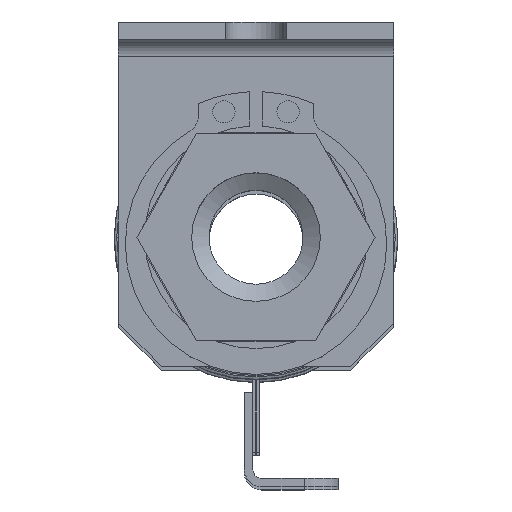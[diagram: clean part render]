
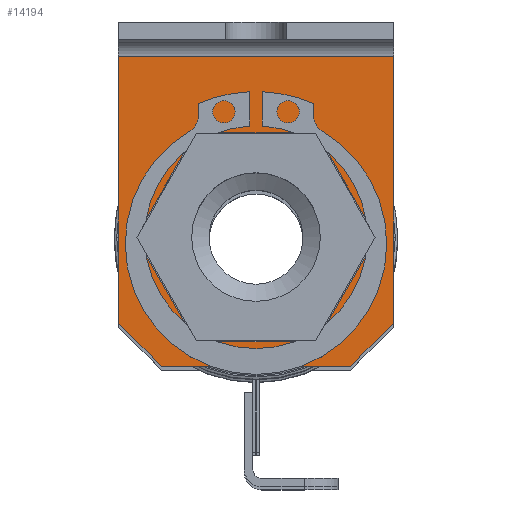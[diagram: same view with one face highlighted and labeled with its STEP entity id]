
A CAD part, top view. The second image highlights one B-rep face of the part: STEP entity #14194.
In plain terms, the highlighted planar face has unit normal (0, 0, 1) as drawn and (1, 0, 0) by its records, which use the part's own axes.
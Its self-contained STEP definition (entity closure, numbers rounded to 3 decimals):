
#2409=LINE('',#17674,#2589);
#2410=LINE('',#17677,#2590);
#2411=LINE('',#17679,#2591);
#2412=LINE('',#17681,#2592);
#2413=LINE('',#17683,#2593);
#2414=LINE('',#17685,#2594);
#2415=LINE('',#17686,#2595);
#2416=LINE('',#17689,#2596);
#2417=LINE('',#17691,#2597);
#2418=LINE('',#17693,#2598);
#2419=LINE('',#17695,#2599);
#2420=LINE('',#17697,#2600);
#2589=VECTOR('',#16060,1000.);
#2590=VECTOR('',#16061,1000.);
#2591=VECTOR('',#16062,1000.);
#2592=VECTOR('',#16063,1000.);
#2593=VECTOR('',#16064,1000.);
#2594=VECTOR('',#16065,1000.);
#2595=VECTOR('',#16066,1000.);
#2596=VECTOR('',#16067,1000.);
#2597=VECTOR('',#16068,1000.);
#2598=VECTOR('',#16069,1000.);
#2599=VECTOR('',#16070,1000.);
#2600=VECTOR('',#16071,1000.);
#2721=PLANE('',#15202);
#3227=ORIENTED_EDGE('',*,*,#6989,.F.);
#3228=ORIENTED_EDGE('',*,*,#6990,.T.);
#3229=ORIENTED_EDGE('',*,*,#6991,.T.);
#3230=ORIENTED_EDGE('',*,*,#6992,.T.);
#3231=ORIENTED_EDGE('',*,*,#6993,.T.);
#3232=ORIENTED_EDGE('',*,*,#6994,.F.);
#3233=ORIENTED_EDGE('',*,*,#6995,.T.);
#3234=ORIENTED_EDGE('',*,*,#6996,.T.);
#3235=ORIENTED_EDGE('',*,*,#6997,.T.);
#3236=ORIENTED_EDGE('',*,*,#6998,.T.);
#3237=ORIENTED_EDGE('',*,*,#6999,.T.);
#3238=ORIENTED_EDGE('',*,*,#7000,.T.);
#6989=EDGE_CURVE('',#9131,#9132,#2409,.F.);
#6990=EDGE_CURVE('',#9131,#9133,#2410,.T.);
#6991=EDGE_CURVE('',#9133,#9134,#2411,.F.);
#6992=EDGE_CURVE('',#9134,#9135,#2412,.T.);
#6993=EDGE_CURVE('',#9135,#9136,#2413,.F.);
#6994=EDGE_CURVE('',#9132,#9136,#2414,.F.);
#6995=EDGE_CURVE('',#9137,#9138,#2415,.T.);
#6996=EDGE_CURVE('',#9138,#9139,#2416,.T.);
#6997=EDGE_CURVE('',#9139,#9140,#2417,.T.);
#6998=EDGE_CURVE('',#9140,#9141,#2418,.T.);
#6999=EDGE_CURVE('',#9141,#9142,#2419,.T.);
#7000=EDGE_CURVE('',#9142,#9137,#2420,.T.);
#9131=VERTEX_POINT('',#17675);
#9132=VERTEX_POINT('',#17676);
#9133=VERTEX_POINT('',#17678);
#9134=VERTEX_POINT('',#17680);
#9135=VERTEX_POINT('',#17682);
#9136=VERTEX_POINT('',#17684);
#9137=VERTEX_POINT('',#17687);
#9138=VERTEX_POINT('',#17688);
#9139=VERTEX_POINT('',#17690);
#9140=VERTEX_POINT('',#17692);
#9141=VERTEX_POINT('',#17694);
#9142=VERTEX_POINT('',#17696);
#10831=EDGE_LOOP('',(#3227,#3228,#3229,#3230,#3231,#3232));
#10832=EDGE_LOOP('',(#3233,#3234,#3235,#3236,#3237,#3238));
#11746=FACE_BOUND('',#10831,.T.);
#11747=FACE_BOUND('',#10832,.T.);
#14194=ADVANCED_FACE('',(#11746,#11747),#2721,.F.);
#15202=AXIS2_PLACEMENT_3D('',#17673,#16058,#16059);
#16058=DIRECTION('',(-1.,0.,0.));
#16059=DIRECTION('',(0.,0.,1.));
#16060=DIRECTION('',(0.,0.,1.));
#16061=DIRECTION('',(0.,-0.707,0.707));
#16062=DIRECTION('',(0.,1.,0.));
#16063=DIRECTION('',(0.,-0.707,-0.707));
#16064=DIRECTION('',(0.,0.,1.));
#16065=DIRECTION('',(0.,1.,0.));
#16066=DIRECTION('',(0.,0.5,0.866));
#16067=DIRECTION('',(0.,1.,0.));
#16068=DIRECTION('',(0.,0.5,-0.866));
#16069=DIRECTION('',(0.,-0.5,-0.866));
#16070=DIRECTION('',(0.,-1.,0.));
#16071=DIRECTION('',(0.,-0.5,0.866));
#17673=CARTESIAN_POINT('',(2.,16.,22.86));
#17674=CARTESIAN_POINT('',(2.,16.,22.86));
#17675=CARTESIAN_POINT('',(2.,16.,17.86));
#17676=CARTESIAN_POINT('',(2.,16.,-13.14));
#17677=CARTESIAN_POINT('',(2.,11.,22.86));
#17678=CARTESIAN_POINT('',(2.,11.,22.86));
#17679=CARTESIAN_POINT('',(2.,16.,22.86));
#17680=CARTESIAN_POINT('',(2.,-11.,22.86));
#17681=CARTESIAN_POINT('',(2.,-16.,17.86));
#17682=CARTESIAN_POINT('',(2.,-16.,17.86));
#17683=CARTESIAN_POINT('',(2.,-16.,22.86));
#17684=CARTESIAN_POINT('',(2.,-16.,-13.14));
#17685=CARTESIAN_POINT('',(2.,16.,-13.14));
#17686=CARTESIAN_POINT('',(2.,-14.03,7.86));
#17687=CARTESIAN_POINT('',(2.,-14.03,7.86));
#17688=CARTESIAN_POINT('',(2.,-7.015,20.01));
#17689=CARTESIAN_POINT('',(2.,-7.015,20.01));
#17690=CARTESIAN_POINT('',(2.,7.015,20.01));
#17691=CARTESIAN_POINT('',(2.,7.015,20.01));
#17692=CARTESIAN_POINT('',(2.,14.03,7.86));
#17693=CARTESIAN_POINT('',(2.,14.03,7.86));
#17694=CARTESIAN_POINT('',(2.,7.015,-4.29));
#17695=CARTESIAN_POINT('',(2.,7.015,-4.29));
#17696=CARTESIAN_POINT('',(2.,-7.015,-4.29));
#17697=CARTESIAN_POINT('',(2.,-7.015,-4.29));
